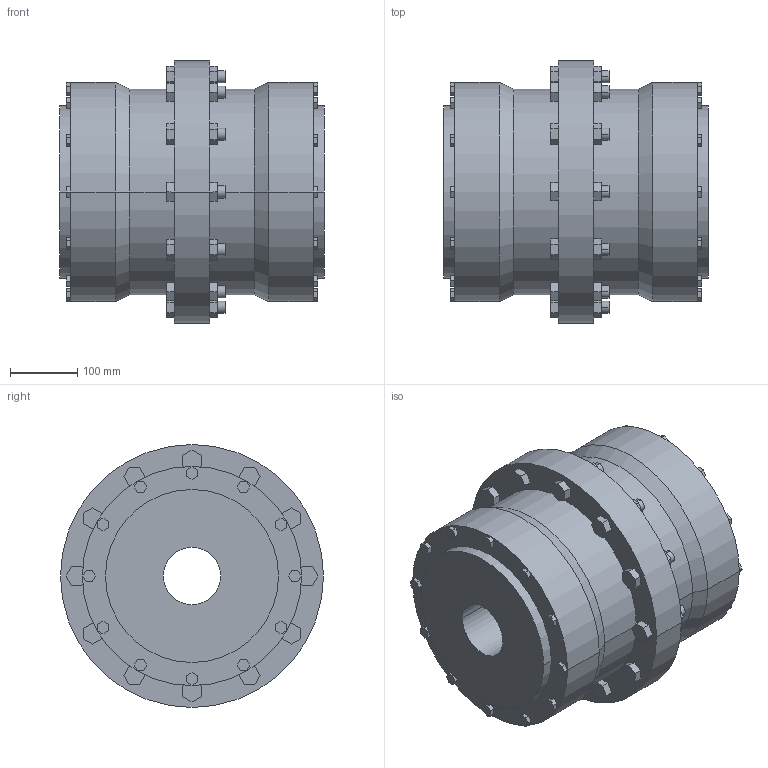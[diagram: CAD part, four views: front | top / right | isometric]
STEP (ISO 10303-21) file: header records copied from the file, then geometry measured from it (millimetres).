
FILE_DESCRIPTION((''),'2;1');
FILE_NAME('A18979000-0_ASM','2018-09-26T',('AB_Roschiwal'),('RENK AG'),'PRO/ENGINEER BY PARAMETRIC TECHNOLOGY CORPORATION, 2015440','PRO/ENGINEER BY PARAMETRIC TECHNOLOGY CORPORATION, 2015440','');
FILE_SCHEMA(('CONFIG_CONTROL_DESIGN'));
Length unit declared in the file: millimetre
Products named in the file (3): SBK160_GEHAEUSE; SBK160_NABE; A18979000-0_ASM
Assembly tree (3 placements, depth 2):
  A18979000-0_ASM
    SBK160_GEHAEUSE
    SBK160_NABE  x2
Bounding box: 392 x 390 x 390 mm (x, y, z)
Volume: 27795752.4 mm3; surface area: 1520731 mm2
Topology: 3 solids, 3 shells, 422 faces, 1036 edges, 688 vertices
Faces by surface type: plane 362, cylinder 56, cone 4
Entity records: 12052 total; most frequent: CARTESIAN_POINT 2100, ORIENTED_EDGE 2024, DIRECTION 1940, EDGE_CURVE 1012, VECTOR 916, LINE 916, VERTEX_POINT 672, AXIS2_PLACEMENT_3D 512
